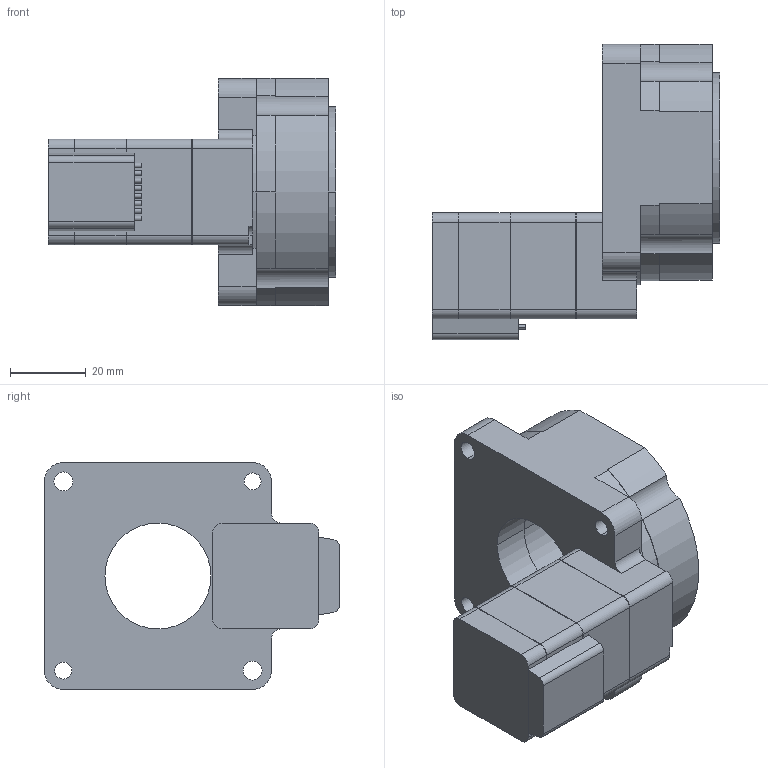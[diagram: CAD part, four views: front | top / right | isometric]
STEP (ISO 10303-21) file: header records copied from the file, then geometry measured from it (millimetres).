
FILE_DESCRIPTION( ( '' ), '1' );
FILE_NAME( 'Z:/14ＣＡＤ/01_CAD業務フォルダ/12_STEP書き出し/05_STEPファイル名の変更作業/02_ファイル名変換の作業場/■手動で書き出し_DG2/DG60-ARAK-1(1)→D2853-A.step.stp', '2013-01-08T00:43:32', ( '' ), ( '' ), ' ', ' ', ' ' );
FILE_SCHEMA( ( 'CONFIG_CONTROL_DESIGN' ) );
Length unit declared in the file: millimetre
Products named in the file (2): 1; 2
Bounding box: 76 x 78 x 60 mm (x, y, z)
Volume: 118564.6 mm3; surface area: 30187.4 mm2
Topology: 2 solids, 2 shells, 229 faces, 590 edges, 372 vertices
Faces by surface type: cylinder 114, plane 83, cone 32
Entity records: 7016 total; most frequent: DIRECTION 1288, CARTESIAN_POINT 1177, ORIENTED_EDGE 1148, EDGE_CURVE 574, AXIS2_PLACEMENT_3D 483, VERTEX_POINT 372, LINE 322, VECTOR 322
